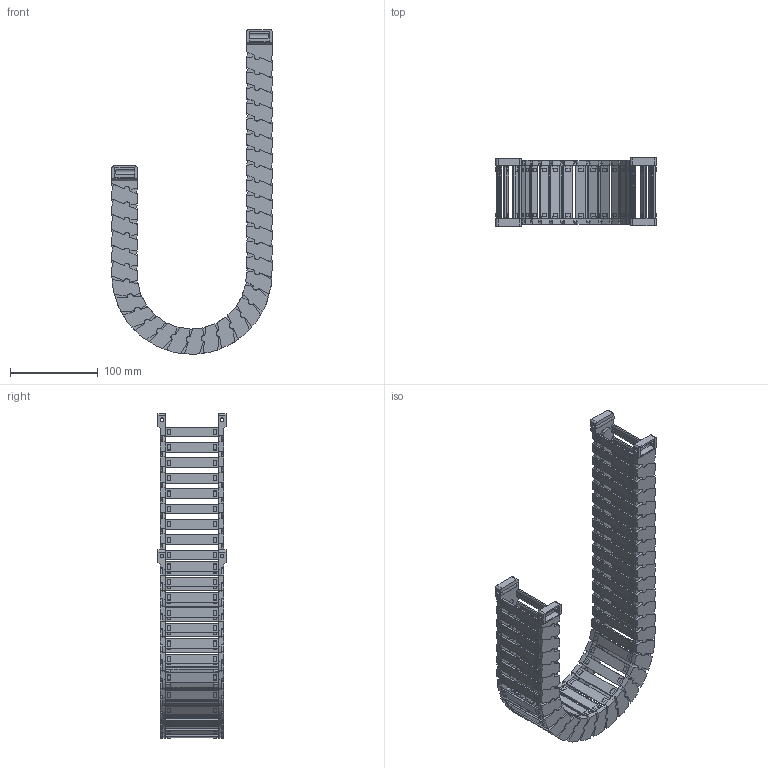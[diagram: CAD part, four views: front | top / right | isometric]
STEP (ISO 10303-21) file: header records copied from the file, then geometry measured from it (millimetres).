
FILE_DESCRIPTION(/* description */ (''),/* implementation_level */ '2;1');
FILE_NAME(/* name */ 'JY22-60-R75.stp',/* time_stamp */ '2026-06-20T14:51:03+08:00',/* author */ (''),/* organization */ (''),/* preprocessor_version */ 'ST-DEVELOPER v19.4',/* originating_system */ 'SIEMENS PLM Software NX2306.5001',/* authorisation */ '');
FILE_SCHEMA (('AP203_CONFIGURATION_CONTROLLED_3D_DESIGN_OF_MECHANICAL_PARTS_AND_ASSEMBLIES_MIM_LF { 1 0 10303 403 2 1 2}'));
Products named in the file (1): 简易图纸_objects
Bounding box: 182.32 x 77.5 x 369.64 mm (x, y, z)
Volume: 317261.6 mm3; surface area: 284707.6 mm2
Topology: 35 solids, 35 shells, 5796 faces, 18770 edges, 12494 vertices
Faces by surface type: plane 4338, cylinder 918, cone 272, bspline 268
Full cylindrical faces by diameter (mm): 4.2 x8, 7 x68, 7.1 x68
Entity records: 215779 total; most frequent: CARTESIAN_POINT 51317, ORIENTED_EDGE 36964, DIRECTION 31874, EDGE_CURVE 18482, LINE 12616, VECTOR 12616, VERTEX_POINT 12350, AXIS2_PLACEMENT_3D 9629
